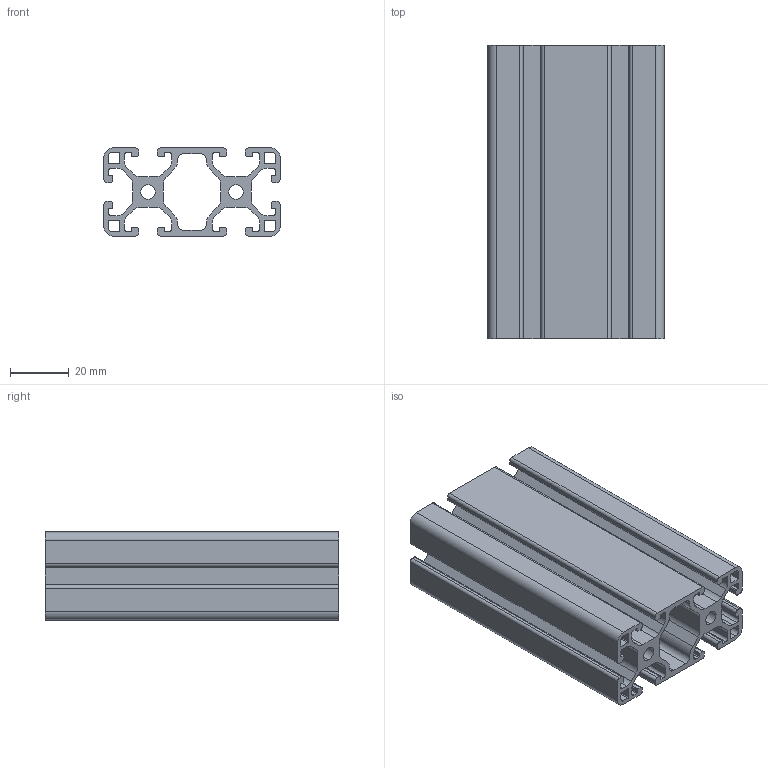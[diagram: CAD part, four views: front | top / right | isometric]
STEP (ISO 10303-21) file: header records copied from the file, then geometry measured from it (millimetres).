
FILE_DESCRIPTION (( 'STEP AP203' ), '1' );
FILE_NAME ('0106P6030L.STEP', '2024-02-27T14:17:50', ( 'Windows-Benutzer' ), ( '' ), 'SwSTEP 2.0', 'SolidWorks 2023', '' );
FILE_SCHEMA (( 'CONFIG_CONTROL_DESIGN' ));
Length unit declared in the file: millimetre
Products named in the file (1): 0106P6030L
Bounding box: 60 x 100 x 30 mm (x, y, z)
Volume: 60087.4 mm3; surface area: 57498 mm2
Topology: 1 solids, 1 shells, 238 faces, 708 edges, 472 vertices
Faces by surface type: cylinder 120, plane 118
Entity records: 8157 total; most frequent: DIRECTION 1426, CARTESIAN_POINT 1419, ORIENTED_EDGE 1416, EDGE_CURVE 708, AXIS2_PLACEMENT_3D 479, VERTEX_POINT 472, LINE 468, VECTOR 468
